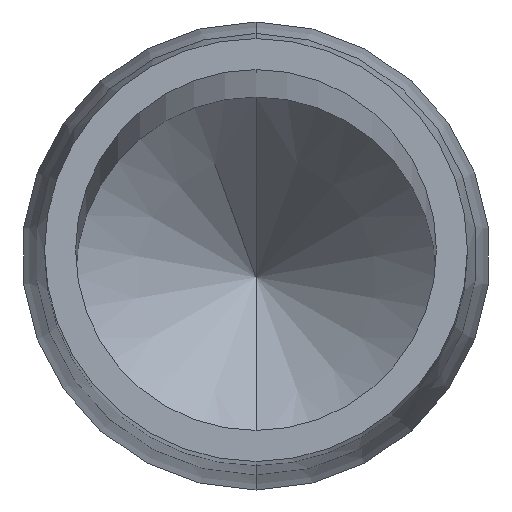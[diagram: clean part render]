
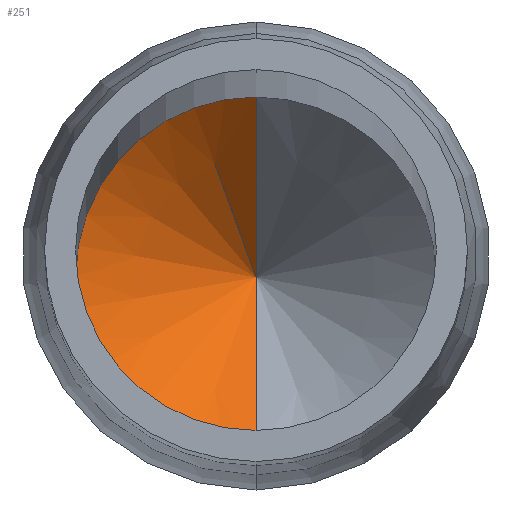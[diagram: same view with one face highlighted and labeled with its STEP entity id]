
A CAD part, top view. The second image highlights one B-rep face of the part: STEP entity #251.
In plain terms, the highlighted conical face has half-angle 45 degrees and reference radius 0.406 mm.
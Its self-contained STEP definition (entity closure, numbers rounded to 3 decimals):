
#1 = DIRECTION ( 'NONE',  ( 0., 1., 0. ) ) ;
#32 = CARTESIAN_POINT ( 'NONE',  ( 0., 0.406, -14.735 ) ) ;
#33 = ORIENTED_EDGE ( 'NONE', *, *, #606, .F. ) ;
#59 = ORIENTED_EDGE ( 'NONE', *, *, #751, .F. ) ;
#84 = FACE_OUTER_BOUND ( 'NONE', #600, .T. ) ;
#95 = CONICAL_SURFACE ( 'NONE', #750, 0.406, 0.785 ) ;
#112 = CIRCLE ( 'NONE', #404, 0.406 ) ;
#251 = ADVANCED_FACE ( 'NONE', ( #84 ), #95, .F. ) ;
#257 = DIRECTION ( 'NONE',  ( 0., -1., 0. ) ) ;
#322 = DIRECTION ( 'NONE',  ( 0., -0.707, 0.707 ) ) ;
#404 = AXIS2_PLACEMENT_3D ( 'NONE', #858, #1006, #1 ) ;
#477 = CARTESIAN_POINT ( 'NONE',  ( 0., 0.406, -14.735 ) ) ;
#510 = EDGE_CURVE ( 'NONE', #949, #516, #564, .T. ) ;
#516 = VERTEX_POINT ( 'NONE', #477 ) ;
#564 = LINE ( 'NONE', #32, #973 ) ;
#581 = CARTESIAN_POINT ( 'NONE',  ( 0., 0., -14.735 ) ) ;
#600 = EDGE_LOOP ( 'NONE', ( #33, #859, #59 ) ) ;
#606 = EDGE_CURVE ( 'NONE', #949, #776, #660, .T. ) ;
#639 = CARTESIAN_POINT ( 'NONE',  ( 0., 0., -15.142 ) ) ;
#660 = LINE ( 'NONE', #1067, #712 ) ;
#712 = VECTOR ( 'NONE', #322, 1000. ) ;
#744 = DIRECTION ( 'NONE',  ( 0., 0., 1. ) ) ;
#750 = AXIS2_PLACEMENT_3D ( 'NONE', #581, #744, #257 ) ;
#751 = EDGE_CURVE ( 'NONE', #776, #516, #112, .T. ) ;
#776 = VERTEX_POINT ( 'NONE', #933 ) ;
#858 = CARTESIAN_POINT ( 'NONE',  ( 0., 0., -14.735 ) ) ;
#859 = ORIENTED_EDGE ( 'NONE', *, *, #510, .T. ) ;
#933 = CARTESIAN_POINT ( 'NONE',  ( 0., -0.406, -14.735 ) ) ;
#949 = VERTEX_POINT ( 'NONE', #639 ) ;
#973 = VECTOR ( 'NONE', #1052, 1000. ) ;
#1006 = DIRECTION ( 'NONE',  ( 0., 0., -1. ) ) ;
#1052 = DIRECTION ( 'NONE',  ( 0., 0.707, 0.707 ) ) ;
#1067 = CARTESIAN_POINT ( 'NONE',  ( 0., -0.406, -14.735 ) ) ;
